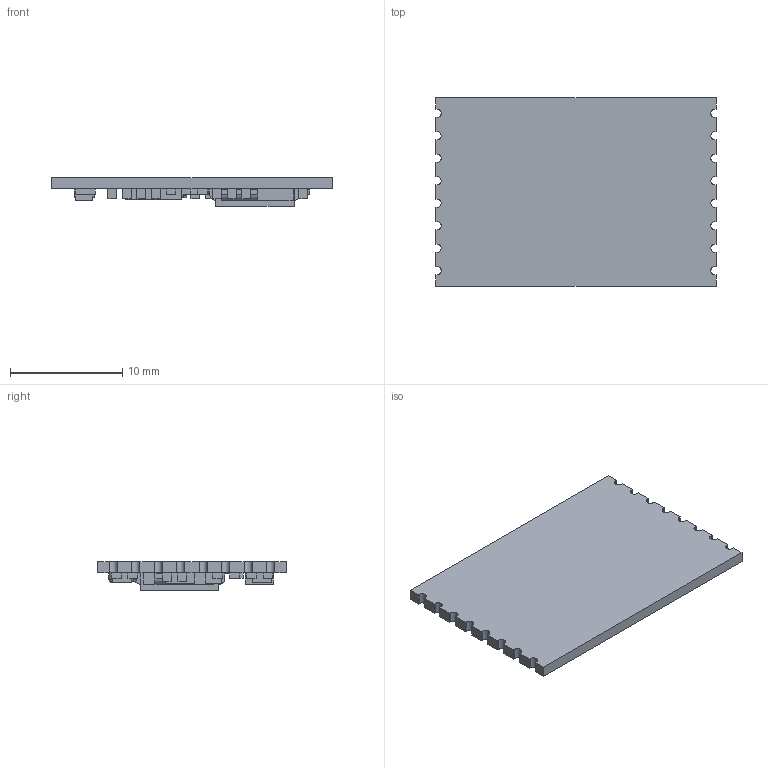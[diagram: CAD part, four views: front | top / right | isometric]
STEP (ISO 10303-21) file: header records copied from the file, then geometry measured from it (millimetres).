
FILE_DESCRIPTION((''),'2;1');
FILE_NAME('PCB_NPINGBU','2019-11-29T00:58:15',('CJL'),(''),'CREO PARAMETRIC BY PTC INC, 2018020','CREO PARAMETRIC BY PTC INC, 2018020','');
FILE_SCHEMA(('CONFIG_CONTROL_DESIGN'));
Length unit declared in the file: millimetre
Products named in the file (1): PCB_NPINGBU
Bounding box: 25 x 16.8 x 2.56 mm (x, y, z)
Volume: 574.6 mm3; surface area: 1120.8 mm2
Topology: 1 solids, 1 shells, 280 faces, 724 edges, 480 vertices
Faces by surface type: plane 248, cylinder 28, bspline 4
Entity records: 8486 total; most frequent: CARTESIAN_POINT 1544, ORIENTED_EDGE 1448, DIRECTION 1336, EDGE_CURVE 724, VECTOR 664, LINE 664, VERTEX_POINT 480, AXIS2_PLACEMENT_3D 336
